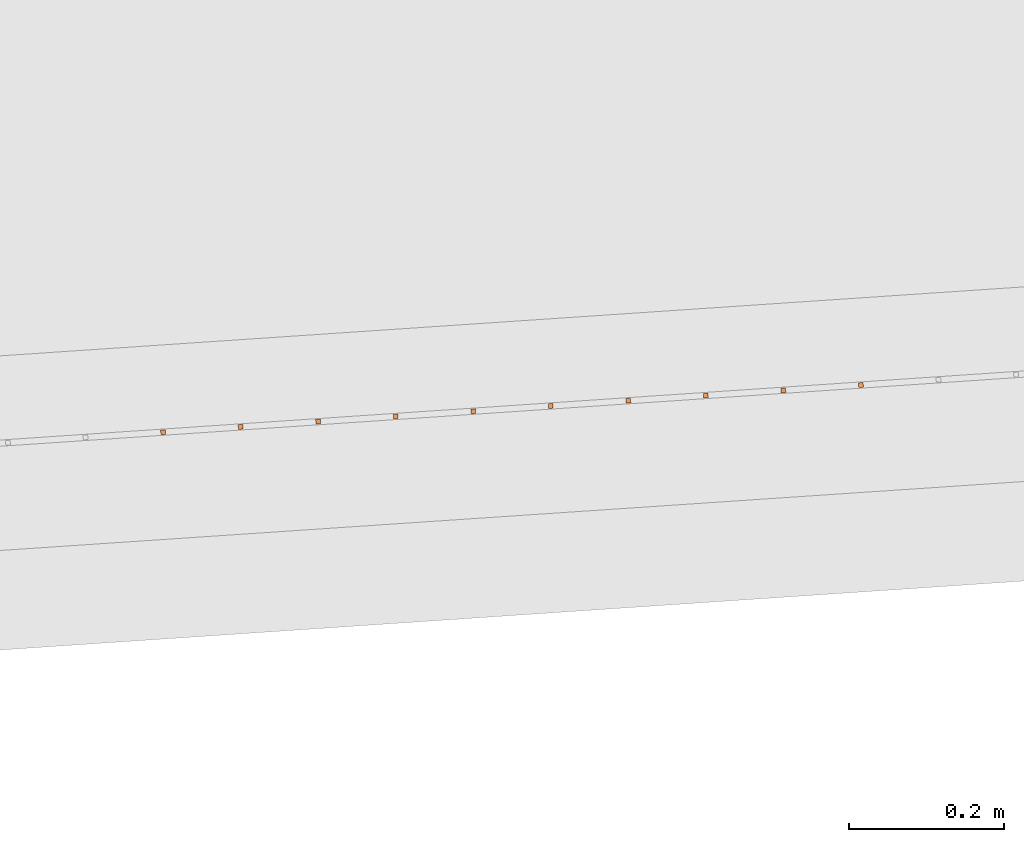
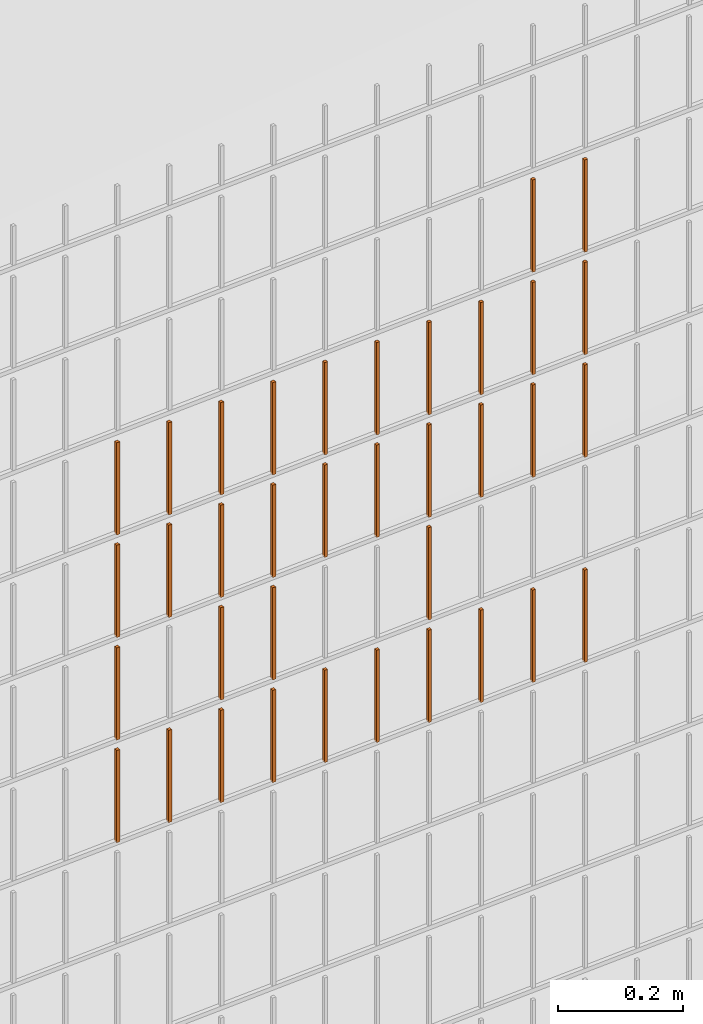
# One storey, part 176 of 1809: 36 proxies, 1 element without a shape of its own.
"""IFC2X3 building model written with IfcOpenShell, lengths in millimetres."""

from ifc_helpers import new_model, entity, si_unit, converted_unit, derived_unit, money_unit, direction, frame, origin_with_axes, place, context, subcontext, project, spatial, faceted_brep, source, transform, mapped, material, type_object, element, aggregate, save


model = new_model("IFC2X3")

# Units and contexts
model_context = context("Model", 3, precision=0.01, world=origin_with_axes(), true_north=direction((0.0, 1.0)))
body_context = subcontext(model_context, "Body", "Model", "MODEL_VIEW")
ifc_project = project(units=[si_unit("LENGTHUNIT", "METRE", prefix="MILLI"), si_unit("AREAUNIT", "SQUARE_METRE"), si_unit("VOLUMEUNIT", "CUBIC_METRE"), converted_unit("PLANEANGLEUNIT", "DEGREE", entity("IfcPlaneAngleMeasure", 0.0174532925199), si_unit("PLANEANGLEUNIT", "RADIAN"), dimensions=[0, 0, 0, 0, 0, 0, 0]), si_unit("SOLIDANGLEUNIT", "STERADIAN"), money_unit("EUR"), converted_unit("TIMEUNIT", "Year", entity("IfcTimeMeasure", 31556926.0), si_unit("TIMEUNIT", "SECOND"), dimensions=[0, 0, 1, 0, 0, 0, 0]), si_unit("MASSUNIT", "GRAM", prefix="KILO"), si_unit("THERMODYNAMICTEMPERATUREUNIT", "DEGREE_CELSIUS"), si_unit("LUMINOUSINTENSITYUNIT", "LUMEN"), si_unit("ENERGYUNIT", "JOULE", prefix="MEGA"), derived_unit("THERMALCONDUCTANCEUNIT", [(si_unit("POWERUNIT", "WATT"), 1), (si_unit("LENGTHUNIT", "METRE"), -1), (si_unit("THERMODYNAMICTEMPERATUREUNIT", "KELVIN"), -1)]), derived_unit("SPECIFICHEATCAPACITYUNIT", [(si_unit("ENERGYUNIT", "JOULE"), 1), (si_unit("MASSUNIT", "GRAM", prefix="KILO"), -1), (si_unit("THERMODYNAMICTEMPERATUREUNIT", "KELVIN"), -1)]), derived_unit("MASSDENSITYUNIT", [(si_unit("MASSUNIT", "GRAM", prefix="KILO"), 1), (si_unit("VOLUMEUNIT", "CUBIC_METRE"), -1)])], contexts=[model_context])

# Site, building, storey
site_placement = place(None, origin_with_axes())
site = spatial("IfcSite", under=ifc_project, at=site_placement, Name="Politse- ja Piirivalveameti ning Päästeameti ühishoone", CompositionType="ELEMENT")
building_placement = place(site_placement, origin_with_axes())
building = spatial("IfcBuilding", under=site, at=building_placement, Name="Politse- ja Piirivalveameti ning Päästeameti ühishoone", CompositionType="ELEMENT")
storey_placement = place(building_placement, origin_with_axes())
storey = spatial("IfcBuildingStorey", under=building, at=storey_placement, Name="Esimene korrus", CompositionType="ELEMENT", Elevation=0.0)

# Proxies
building_element_proxy_type_1 = type_object("IfcBuildingElementProxyType", Name="Railing Type", PredefinedType="NOTDEFINED")
proxy_1_placement = place(storey_placement, frame((89252.001212, -29183.4766571, 203.661247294), z_axis=(0.0, 0.0, 1.0), x_axis=(1.0, 0.0, 0.0)))
proxy_1 = element("IfcBuildingElementProxy", 1, at=proxy_1_placement, inside=storey, type_object=building_element_proxy_type_1, Name="PIIRDEAED")
ifc_material = material(Name="ET-03_Raud")
building_element_proxy_type_2 = type_object("IfcBuildingElementProxyType", Name="IfcBuildingElementProxy", PredefinedType="NOTDEFINED")
shared_shape_1 = source(origin_with_axes(), body_context, "Body", "Brep", [
    faceted_brep([(3.0, 3.0, -0.000752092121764), (-3.0, 3.0, -0.000752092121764), (-3.0, 3.0, 179.99926046), (3.0, 3.0, 179.99926046), (3.0, -3.0, 0.000752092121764), (-3.0, -3.0, 0.000752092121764), (-3.0, -3.0, 180.000764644), (3.0, -3.0, 180.000764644)], [[[0, 1, 2, 3]], [[0, 4, 5, 1]], [[1, 5, 6, 2]], [[3, 2, 6, 7]], [[4, 0, 3, 7]], [[5, 4, 7, 6]]]),
])
proxy_2_placement = place(proxy_1_placement, frame((-73559.0725734, -22266.412512, 1208.75129845), z_axis=(0.0, 0.0, 1.0), x_axis=(1.0, 0.0, 0.0)))
proxy_2 = element("IfcBuildingElementProxy", 2, at=proxy_2_placement, type_object=building_element_proxy_type_2, material=ifc_material, Name="BALUSTER - 001", context=body_context, shape_type="MappedRepresentation", body=[
    mapped(shared_shape_1, transform((0.0, 0.0, 0.0), x_axis=(-0.0673926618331, 0.997726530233, 0.0), y_axis=(-0.997726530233, -0.0673926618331, 0.0), z_axis=(0.0, 0.0, 1.0))),
])
proxy_3_placement = place(proxy_1_placement, frame((-74157.7084915, -22306.8481091, 1208.60088002), z_axis=(0.0, 0.0, 1.0), x_axis=(1.0, 0.0, 0.0)))
proxy_3 = element("IfcBuildingElementProxy", 3, at=proxy_3_placement, type_object=building_element_proxy_type_2, material=ifc_material, Name="BALUSTER - 001", context=body_context, shape_type="MappedRepresentation", body=[
    mapped(shared_shape_1, transform((0.0, 0.0, 0.0), x_axis=(-0.0673926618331, 0.997726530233, 0.0), y_axis=(-0.997726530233, -0.0673926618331, 0.0), z_axis=(0.0, 0.0, 1.0))),
])
shared_shape_2 = source(origin_with_axes(), body_context, "Body", "Brep", [
    faceted_brep([(3.0, 3.0, -0.000752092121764), (-3.0, 3.0, -0.000752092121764), (-3.0, 3.0, 179.99926046), (3.0, 3.0, 179.99926046), (3.0, -3.0, 0.000752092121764), (-3.0, -3.0, 0.000752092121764), (-3.0, -3.0, 180.000764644), (3.0, -3.0, 180.000764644)], [[[0, 1, 2, 3]], [[0, 4, 5, 1]], [[1, 5, 6, 2]], [[3, 2, 6, 7]], [[4, 0, 3, 7]], [[5, 4, 7, 6]]]),
])
proxy_4_placement = place(proxy_1_placement, frame((-74157.7084915, -22306.8481091, 1008.60088002), z_axis=(0.0, 0.0, 1.0), x_axis=(1.0, 0.0, 0.0)))
proxy_4 = element("IfcBuildingElementProxy", 4, at=proxy_4_placement, type_object=building_element_proxy_type_2, material=ifc_material, Name="BALUSTER - 001", context=body_context, shape_type="MappedRepresentation", body=[
    mapped(shared_shape_2, transform((0.0, 0.0, 0.0), x_axis=(-0.0673926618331, 0.997726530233, 0.0), y_axis=(-0.997726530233, -0.0673926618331, 0.0), z_axis=(0.0, 0.0, 1.0))),
])
proxy_5_placement = place(proxy_1_placement, frame((-73559.0725734, -22266.412512, 1408.75129845), z_axis=(0.0, 0.0, 1.0), x_axis=(1.0, 0.0, 0.0)))
proxy_5 = element("IfcBuildingElementProxy", 5, at=proxy_5_placement, type_object=building_element_proxy_type_2, material=ifc_material, Name="BALUSTER - 001", context=body_context, shape_type="MappedRepresentation", body=[
    mapped(shared_shape_2, transform((0.0, 0.0, 0.0), x_axis=(-0.0673926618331, 0.997726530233, 0.0), y_axis=(-0.997726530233, -0.0673926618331, 0.0), z_axis=(0.0, 0.0, 1.0))),
])
proxy_6_placement = place(proxy_1_placement, frame((-74157.7084915, -22306.8481091, 1408.60088002), z_axis=(0.0, 0.0, 1.0), x_axis=(1.0, 0.0, 0.0)))
proxy_6 = element("IfcBuildingElementProxy", 6, at=proxy_6_placement, type_object=building_element_proxy_type_2, material=ifc_material, Name="BALUSTER - 001", context=body_context, shape_type="MappedRepresentation", body=[
    mapped(shared_shape_2, transform((0.0, 0.0, 0.0), x_axis=(-0.0673926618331, 0.997726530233, 0.0), y_axis=(-0.997726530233, -0.0673926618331, 0.0), z_axis=(0.0, 0.0, 1.0))),
])
shared_shape_3 = source(origin_with_axes(), body_context, "Body", "Brep", [
    faceted_brep([(3.0, 3.0, -0.000752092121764), (-3.0, 3.0, -0.000752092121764), (-3.0, 3.0, 179.99926046), (3.0, 3.0, 179.99926046), (3.0, -3.0, 0.000752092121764), (-3.0, -3.0, 0.000752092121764), (-3.0, -3.0, 180.000764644), (3.0, -3.0, 180.000764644)], [[[0, 1, 2, 3]], [[0, 4, 5, 1]], [[1, 5, 6, 2]], [[3, 2, 6, 7]], [[4, 0, 3, 7]], [[5, 4, 7, 6]]]),
])
proxy_7_placement = place(proxy_1_placement, frame((-73359.5272673, -22252.9339796, 1208.80143792), z_axis=(0.0, 0.0, 1.0), x_axis=(1.0, 0.0, 0.0)))
proxy_7 = element("IfcBuildingElementProxy", 7, at=proxy_7_placement, type_object=building_element_proxy_type_2, material=ifc_material, Name="BALUSTER - 001", context=body_context, shape_type="MappedRepresentation", body=[
    mapped(shared_shape_3, transform((0.0, 0.0, 0.0), x_axis=(-0.0673926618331, 0.997726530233, 0.0), y_axis=(-0.997726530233, -0.0673926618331, 0.0), z_axis=(0.0, 0.0, 1.0))),
])
shared_shape_4 = source(origin_with_axes(), body_context, "Body", "Brep", [
    faceted_brep([(3.0, 3.0, -0.000752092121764), (-3.0, 3.0, -0.000752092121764), (-3.0, 3.0, 179.99926046), (3.0, 3.0, 179.99926046), (3.0, -3.0, 0.000752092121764), (-3.0, -3.0, 0.000752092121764), (-3.0, -3.0, 180.000764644), (3.0, -3.0, 180.000764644)], [[[0, 1, 2, 3]], [[0, 4, 5, 1]], [[1, 5, 6, 2]], [[3, 2, 6, 7]], [[4, 0, 3, 7]], [[5, 4, 7, 6]]]),
])
proxy_8_placement = place(proxy_1_placement, frame((-73359.5272673, -22252.9339796, 808.801437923), z_axis=(0.0, 0.0, 1.0), x_axis=(1.0, 0.0, 0.0)))
proxy_8 = element("IfcBuildingElementProxy", 8, at=proxy_8_placement, type_object=building_element_proxy_type_2, material=ifc_material, Name="BALUSTER - 001", context=body_context, shape_type="MappedRepresentation", body=[
    mapped(shared_shape_4, transform((0.0, 0.0, 0.0), x_axis=(-0.0673926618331, 0.997726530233, 0.0), y_axis=(-0.997726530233, -0.0673926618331, 0.0), z_axis=(0.0, 0.0, 1.0))),
])
proxy_9_placement = place(proxy_1_placement, frame((-73259.7546143, -22246.1947135, 1208.82650766), z_axis=(0.0, 0.0, 1.0), x_axis=(1.0, 0.0, 0.0)))
proxy_9 = element("IfcBuildingElementProxy", 9, at=proxy_9_placement, type_object=building_element_proxy_type_2, material=ifc_material, Name="BALUSTER - 001", context=body_context, shape_type="MappedRepresentation", body=[
    mapped(shared_shape_4, transform((0.0, 0.0, 0.0), x_axis=(-0.0673926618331, 0.997726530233, 0.0), y_axis=(-0.997726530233, -0.0673926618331, 0.0), z_axis=(0.0, 0.0, 1.0))),
])
shared_shape_5 = source(origin_with_axes(), body_context, "Body", "Brep", [
    faceted_brep([(3.0, 3.0, -0.000752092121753), (-3.0, 3.0, -0.000752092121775), (-3.0, 3.0, 179.99926046), (3.0, 3.0, 179.99926046), (3.0, -3.0, 0.000752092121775), (-3.0, -3.0, 0.000752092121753), (-3.0, -3.0, 180.000764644), (3.0, -3.0, 180.000764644)], [[[0, 1, 2, 3]], [[0, 4, 5, 1]], [[1, 5, 6, 2]], [[3, 2, 6, 7]], [[4, 0, 3, 7]], [[5, 4, 7, 6]]]),
])
proxy_10_placement = place(proxy_1_placement, frame((-73559.0725734, -22266.412512, 808.751298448), z_axis=(0.0, 0.0, 1.0), x_axis=(1.0, 0.0, 0.0)))
proxy_10 = element("IfcBuildingElementProxy", 10, at=proxy_10_placement, type_object=building_element_proxy_type_2, material=ifc_material, Name="BALUSTER - 001", context=body_context, shape_type="MappedRepresentation", body=[
    mapped(shared_shape_5, transform((0.0, 0.0, 0.0), x_axis=(-0.0673926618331, 0.997726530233, 0.0), y_axis=(-0.997726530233, -0.0673926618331, 0.0), z_axis=(0.0, 0.0, 1.0))),
])
shared_shape_6 = source(origin_with_axes(), body_context, "Body", "Brep", [
    faceted_brep([(3.0, 3.0, -0.000752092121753), (-3.0, 3.0, -0.000752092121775), (-3.0, 3.0, 179.99926046), (3.0, 3.0, 179.99926046), (3.0, -3.0, 0.000752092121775), (-3.0, -3.0, 0.000752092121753), (-3.0, -3.0, 180.000764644), (3.0, -3.0, 180.000764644)], [[[0, 1, 2, 3]], [[0, 4, 5, 1]], [[1, 5, 6, 2]], [[3, 2, 6, 7]], [[4, 0, 3, 7]], [[5, 4, 7, 6]]]),
])
proxy_11_placement = place(proxy_1_placement, frame((-73858.3905324, -22286.6303106, 808.676089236), z_axis=(0.0, 0.0, 1.0), x_axis=(1.0, 0.0, 0.0)))
proxy_11 = element("IfcBuildingElementProxy", 11, at=proxy_11_placement, type_object=building_element_proxy_type_2, material=ifc_material, Name="BALUSTER - 001", context=body_context, shape_type="MappedRepresentation", body=[
    mapped(shared_shape_6, transform((0.0, 0.0, 0.0), x_axis=(-0.0673926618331, 0.997726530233, 0.0), y_axis=(-0.997726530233, -0.0673926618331, 0.0), z_axis=(0.0, 0.0, 1.0))),
])
proxy_12_placement = place(proxy_1_placement, frame((-73858.3905324, -22286.6303106, 1208.67608924), z_axis=(0.0, 0.0, 1.0), x_axis=(1.0, 0.0, 0.0)))
proxy_12 = element("IfcBuildingElementProxy", 12, at=proxy_12_placement, type_object=building_element_proxy_type_2, material=ifc_material, Name="BALUSTER - 001", context=body_context, shape_type="MappedRepresentation", body=[
    mapped(shared_shape_6, transform((0.0, 0.0, 0.0), x_axis=(-0.0673926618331, 0.997726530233, 0.0), y_axis=(-0.997726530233, -0.0673926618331, 0.0), z_axis=(0.0, 0.0, 1.0))),
])
shared_shape_7 = source(origin_with_axes(), body_context, "Body", "Brep", [
    faceted_brep([(3.0, 3.0, -0.000752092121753), (-3.0, 3.0, -0.000752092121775), (-3.0, 3.0, 179.99926046), (3.0, 3.0, 179.99926046), (3.0, -3.0, 0.000752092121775), (-3.0, -3.0, 0.000752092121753), (-3.0, -3.0, 180.000764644), (3.0, -3.0, 180.000764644)], [[[0, 1, 2, 3]], [[0, 4, 5, 1]], [[1, 5, 6, 2]], [[3, 2, 6, 7]], [[4, 0, 3, 7]], [[5, 4, 7, 6]]]),
])
proxy_13_placement = place(proxy_1_placement, frame((-73658.8452264, -22273.1517782, 1208.72622871), z_axis=(0.0, 0.0, 1.0), x_axis=(1.0, 0.0, 0.0)))
proxy_13 = element("IfcBuildingElementProxy", 13, at=proxy_13_placement, type_object=building_element_proxy_type_2, material=ifc_material, Name="BALUSTER - 001", context=body_context, shape_type="MappedRepresentation", body=[
    mapped(shared_shape_7, transform((0.0, 0.0, 0.0), x_axis=(-0.0673926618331, 0.997726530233, 0.0), y_axis=(-0.997726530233, -0.0673926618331, 0.0), z_axis=(0.0, 0.0, 1.0))),
])
shared_shape_8 = source(origin_with_axes(), body_context, "Body", "Brep", [
    faceted_brep([(3.0, 3.0, -0.000752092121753), (-3.0, 3.0, -0.000752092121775), (-3.0, 3.0, 179.99926046), (3.0, 3.0, 179.99926046), (3.0, -3.0, 0.000752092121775), (-3.0, -3.0, 0.000752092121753), (-3.0, -3.0, 180.000764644), (3.0, -3.0, 180.000764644)], [[[0, 1, 2, 3]], [[0, 4, 5, 1]], [[1, 5, 6, 2]], [[3, 2, 6, 7]], [[4, 0, 3, 7]], [[5, 4, 7, 6]]]),
])
proxy_14_placement = place(proxy_1_placement, frame((-73259.7546143, -22246.1947135, 808.826507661), z_axis=(0.0, 0.0, 1.0), x_axis=(1.0, 0.0, 0.0)))
proxy_14 = element("IfcBuildingElementProxy", 14, at=proxy_14_placement, type_object=building_element_proxy_type_2, material=ifc_material, Name="BALUSTER - 001", context=body_context, shape_type="MappedRepresentation", body=[
    mapped(shared_shape_8, transform((0.0, 0.0, 0.0), x_axis=(-0.0673926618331, 0.997726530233, 0.0), y_axis=(-0.997726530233, -0.0673926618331, 0.0), z_axis=(0.0, 0.0, 1.0))),
])
proxy_15_placement = place(proxy_1_placement, frame((-73958.1631855, -22293.3695767, 1208.6510195), z_axis=(0.0, 0.0, 1.0), x_axis=(1.0, 0.0, 0.0)))
proxy_15 = element("IfcBuildingElementProxy", 15, at=proxy_15_placement, type_object=building_element_proxy_type_2, material=ifc_material, Name="BALUSTER - 001", context=body_context, shape_type="MappedRepresentation", body=[
    mapped(shared_shape_8, transform((0.0, 0.0, 0.0), x_axis=(-0.0673926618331, 0.997726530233, 0.0), y_axis=(-0.997726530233, -0.0673926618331, 0.0), z_axis=(0.0, 0.0, 1.0))),
])
shared_shape_9 = source(origin_with_axes(), body_context, "Body", "Brep", [
    faceted_brep([(3.0, 3.0, -0.000752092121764), (-3.0, 3.0, -0.000752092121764), (-3.0, 3.0, 179.99926046), (3.0, 3.0, 179.99926046), (3.0, -3.0, 0.000752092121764), (-3.0, -3.0, 0.000752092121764), (-3.0, -3.0, 180.000764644), (3.0, -3.0, 180.000764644)], [[[0, 1, 2, 3]], [[0, 4, 5, 1]], [[1, 5, 6, 2]], [[3, 2, 6, 7]], [[4, 0, 3, 7]], [[5, 4, 7, 6]]]),
])
proxy_16_placement = place(proxy_1_placement, frame((-73259.7546143, -22246.1947135, 1408.82650766), z_axis=(0.0, 0.0, 1.0), x_axis=(1.0, 0.0, 0.0)))
proxy_16 = element("IfcBuildingElementProxy", 16, at=proxy_16_placement, type_object=building_element_proxy_type_2, material=ifc_material, Name="BALUSTER - 001", context=body_context, shape_type="MappedRepresentation", body=[
    mapped(shared_shape_9, transform((0.0, 0.0, 0.0), x_axis=(-0.0673926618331, 0.997726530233, 0.0), y_axis=(-0.997726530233, -0.0673926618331, 0.0), z_axis=(0.0, 0.0, 1.0))),
])
proxy_17_placement = place(proxy_1_placement, frame((-73259.7546143, -22246.1947135, 1608.82650766), z_axis=(0.0, 0.0, 1.0), x_axis=(1.0, 0.0, 0.0)))
proxy_17 = element("IfcBuildingElementProxy", 17, at=proxy_17_placement, type_object=building_element_proxy_type_2, material=ifc_material, Name="BALUSTER - 001", context=body_context, shape_type="MappedRepresentation", body=[
    mapped(shared_shape_9, transform((0.0, 0.0, 0.0), x_axis=(-0.0673926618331, 0.997726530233, 0.0), y_axis=(-0.997726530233, -0.0673926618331, 0.0), z_axis=(0.0, 0.0, 1.0))),
])
shared_shape_10 = source(origin_with_axes(), body_context, "Body", "Brep", [
    faceted_brep([(3.0, 3.0, -0.000752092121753), (-3.0, 3.0, -0.000752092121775), (-3.0, 3.0, 179.99926046), (3.0, 3.0, 179.99926046), (3.0, -3.0, 0.000752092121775), (-3.0, -3.0, 0.000752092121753), (-3.0, -3.0, 180.000764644), (3.0, -3.0, 180.000764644)], [[[0, 1, 2, 3]], [[0, 4, 5, 1]], [[1, 5, 6, 2]], [[3, 2, 6, 7]], [[4, 0, 3, 7]], [[5, 4, 7, 6]]]),
])
proxy_18_placement = place(proxy_1_placement, frame((-73858.3905324, -22286.6303106, 1408.67608924), z_axis=(0.0, 0.0, 1.0), x_axis=(1.0, 0.0, 0.0)))
proxy_18 = element("IfcBuildingElementProxy", 18, at=proxy_18_placement, type_object=building_element_proxy_type_2, material=ifc_material, Name="BALUSTER - 001", context=body_context, shape_type="MappedRepresentation", body=[
    mapped(shared_shape_10, transform((0.0, 0.0, 0.0), x_axis=(-0.0673926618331, 0.997726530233, 0.0), y_axis=(-0.997726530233, -0.0673926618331, 0.0), z_axis=(0.0, 0.0, 1.0))),
])
shared_shape_11 = source(origin_with_axes(), body_context, "Body", "Brep", [
    faceted_brep([(3.0, 3.0, -0.000752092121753), (-3.0, 3.0, -0.000752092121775), (-3.0, 3.0, 179.99926046), (3.0, 3.0, 179.99926046), (3.0, -3.0, 0.000752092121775), (-3.0, -3.0, 0.000752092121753), (-3.0, -3.0, 180.000764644), (3.0, -3.0, 180.000764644)], [[[0, 1, 2, 3]], [[0, 4, 5, 1]], [[1, 5, 6, 2]], [[3, 2, 6, 7]], [[4, 0, 3, 7]], [[5, 4, 7, 6]]]),
])
proxy_19_placement = place(proxy_1_placement, frame((-73958.1631855, -22293.3695767, 1408.6510195), z_axis=(0.0, 0.0, 1.0), x_axis=(1.0, 0.0, 0.0)))
proxy_19 = element("IfcBuildingElementProxy", 19, at=proxy_19_placement, type_object=building_element_proxy_type_2, material=ifc_material, Name="BALUSTER - 001", context=body_context, shape_type="MappedRepresentation", body=[
    mapped(shared_shape_11, transform((0.0, 0.0, 0.0), x_axis=(-0.0673926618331, 0.997726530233, 0.0), y_axis=(-0.997726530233, -0.0673926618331, 0.0), z_axis=(0.0, 0.0, 1.0))),
])
shared_shape_12 = source(origin_with_axes(), body_context, "Body", "Brep", [
    faceted_brep([(3.0, 3.0, -0.000752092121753), (-3.0, 3.0, -0.000752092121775), (-3.0, 3.0, 179.99926046), (3.0, 3.0, 179.99926046), (3.0, -3.0, 0.000752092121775), (-3.0, -3.0, 0.000752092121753), (-3.0, -3.0, 180.000764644), (3.0, -3.0, 180.000764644)], [[[0, 1, 2, 3]], [[0, 4, 5, 1]], [[1, 5, 6, 2]], [[3, 2, 6, 7]], [[4, 0, 3, 7]], [[5, 4, 7, 6]]]),
])
proxy_20_placement = place(proxy_1_placement, frame((-73658.8452264, -22273.1517782, 808.726228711), z_axis=(0.0, 0.0, 1.0), x_axis=(1.0, 0.0, 0.0)))
proxy_20 = element("IfcBuildingElementProxy", 20, at=proxy_20_placement, type_object=building_element_proxy_type_2, material=ifc_material, Name="BALUSTER - 001", context=body_context, shape_type="MappedRepresentation", body=[
    mapped(shared_shape_12, transform((0.0, 0.0, 0.0), x_axis=(-0.0673926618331, 0.997726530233, 0.0), y_axis=(-0.997726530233, -0.0673926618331, 0.0), z_axis=(0.0, 0.0, 1.0))),
])
proxy_21_placement = place(proxy_1_placement, frame((-73958.1631855, -22293.3695767, 808.651019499), z_axis=(0.0, 0.0, 1.0), x_axis=(1.0, 0.0, 0.0)))
proxy_21 = element("IfcBuildingElementProxy", 21, at=proxy_21_placement, type_object=building_element_proxy_type_2, material=ifc_material, Name="BALUSTER - 001", context=body_context, shape_type="MappedRepresentation", body=[
    mapped(shared_shape_12, transform((0.0, 0.0, 0.0), x_axis=(-0.0673926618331, 0.997726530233, 0.0), y_axis=(-0.997726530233, -0.0673926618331, 0.0), z_axis=(0.0, 0.0, 1.0))),
])
shared_shape_13 = source(origin_with_axes(), body_context, "Body", "Brep", [
    faceted_brep([(3.0, 3.0, -0.000752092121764), (-3.0, 3.0, -0.000752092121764), (-3.0, 3.0, 179.99926046), (3.0, 3.0, 179.99926046), (3.0, -3.0, 0.000752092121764), (-3.0, -3.0, 0.000752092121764), (-3.0, -3.0, 180.000764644), (3.0, -3.0, 180.000764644)], [[[0, 1, 2, 3]], [[0, 4, 5, 1]], [[1, 5, 6, 2]], [[3, 2, 6, 7]], [[4, 0, 3, 7]], [[5, 4, 7, 6]]]),
])
proxy_22_placement = place(proxy_1_placement, frame((-74057.9358385, -22300.1088429, 808.625949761), z_axis=(0.0, 0.0, 1.0), x_axis=(1.0, 0.0, 0.0)))
proxy_22 = element("IfcBuildingElementProxy", 22, at=proxy_22_placement, type_object=building_element_proxy_type_2, material=ifc_material, Name="BALUSTER - 001", context=body_context, shape_type="MappedRepresentation", body=[
    mapped(shared_shape_13, transform((0.0, 0.0, 0.0), x_axis=(-0.0673926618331, 0.997726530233, 0.0), y_axis=(-0.997726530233, -0.0673926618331, 0.0), z_axis=(0.0, 0.0, 1.0))),
])
shared_shape_14 = source(origin_with_axes(), body_context, "Body", "Brep", [
    faceted_brep([(3.0, 3.0, -0.000752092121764), (-3.0, 3.0, -0.000752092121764), (-3.0, 3.0, 179.99926046), (3.0, 3.0, 179.99926046), (3.0, -3.0, 0.000752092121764), (-3.0, -3.0, 0.000752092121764), (-3.0, -3.0, 180.000764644), (3.0, -3.0, 180.000764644)], [[[0, 1, 2, 3]], [[0, 4, 5, 1]], [[1, 5, 6, 2]], [[3, 2, 6, 7]], [[4, 0, 3, 7]], [[5, 4, 7, 6]]]),
])
proxy_23_placement = place(proxy_1_placement, frame((-73459.2999203, -22259.6732458, 808.776368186), z_axis=(0.0, 0.0, 1.0), x_axis=(1.0, 0.0, 0.0)))
proxy_23 = element("IfcBuildingElementProxy", 23, at=proxy_23_placement, type_object=building_element_proxy_type_2, material=ifc_material, Name="BALUSTER - 001", context=body_context, shape_type="MappedRepresentation", body=[
    mapped(shared_shape_14, transform((0.0, 0.0, 0.0), x_axis=(-0.0673926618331, 0.997726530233, 0.0), y_axis=(-0.997726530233, -0.0673926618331, 0.0), z_axis=(0.0, 0.0, 1.0))),
])
proxy_24_placement = place(proxy_1_placement, frame((-73459.2999203, -22259.6732458, 1208.77636819), z_axis=(0.0, 0.0, 1.0), x_axis=(1.0, 0.0, 0.0)))
proxy_24 = element("IfcBuildingElementProxy", 24, at=proxy_24_placement, type_object=building_element_proxy_type_2, material=ifc_material, Name="BALUSTER - 001", context=body_context, shape_type="MappedRepresentation", body=[
    mapped(shared_shape_14, transform((0.0, 0.0, 0.0), x_axis=(-0.0673926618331, 0.997726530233, 0.0), y_axis=(-0.997726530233, -0.0673926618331, 0.0), z_axis=(0.0, 0.0, 1.0))),
])
shared_shape_15 = source(origin_with_axes(), body_context, "Body", "Brep", [
    faceted_brep([(3.0, 3.0, -0.000752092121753), (-3.0, 3.0, -0.000752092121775), (-3.0, 3.0, 179.99926046), (3.0, 3.0, 179.99926046), (3.0, -3.0, 0.000752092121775), (-3.0, -3.0, 0.000752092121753), (-3.0, -3.0, 180.000764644), (3.0, -3.0, 180.000764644)], [[[0, 1, 2, 3]], [[0, 4, 5, 1]], [[1, 5, 6, 2]], [[3, 2, 6, 7]], [[4, 0, 3, 7]], [[5, 4, 7, 6]]]),
])
proxy_25_placement = place(proxy_1_placement, frame((-73758.6178794, -22279.8910444, 808.701158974), z_axis=(0.0, 0.0, 1.0), x_axis=(1.0, 0.0, 0.0)))
proxy_25 = element("IfcBuildingElementProxy", 25, at=proxy_25_placement, type_object=building_element_proxy_type_2, material=ifc_material, Name="BALUSTER - 001", context=body_context, shape_type="MappedRepresentation", body=[
    mapped(shared_shape_15, transform((0.0, 0.0, 0.0), x_axis=(-0.0673926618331, 0.997726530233, 0.0), y_axis=(-0.997726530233, -0.0673926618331, 0.0), z_axis=(0.0, 0.0, 1.0))),
])
proxy_26_placement = place(proxy_1_placement, frame((-73758.6178794, -22279.8910444, 1208.70115897), z_axis=(0.0, 0.0, 1.0), x_axis=(1.0, 0.0, 0.0)))
proxy_26 = element("IfcBuildingElementProxy", 26, at=proxy_26_placement, type_object=building_element_proxy_type_2, material=ifc_material, Name="BALUSTER - 001", context=body_context, shape_type="MappedRepresentation", body=[
    mapped(shared_shape_15, transform((0.0, 0.0, 0.0), x_axis=(-0.0673926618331, 0.997726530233, 0.0), y_axis=(-0.997726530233, -0.0673926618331, 0.0), z_axis=(0.0, 0.0, 1.0))),
])
shared_shape_16 = source(origin_with_axes(), body_context, "Body", "Brep", [
    faceted_brep([(3.0, 3.0, -0.000752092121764), (-3.0, 3.0, -0.000752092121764), (-3.0, 3.0, 179.99926046), (3.0, 3.0, 179.99926046), (3.0, -3.0, 0.000752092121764), (-3.0, -3.0, 0.000752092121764), (-3.0, -3.0, 180.000764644), (3.0, -3.0, 180.000764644)], [[[0, 1, 2, 3]], [[0, 4, 5, 1]], [[1, 5, 6, 2]], [[3, 2, 6, 7]], [[4, 0, 3, 7]], [[5, 4, 7, 6]]]),
])
proxy_27_placement = place(proxy_1_placement, frame((-73459.2999203, -22259.6732458, 1408.77636819), z_axis=(0.0, 0.0, 1.0), x_axis=(1.0, 0.0, 0.0)))
proxy_27 = element("IfcBuildingElementProxy", 27, at=proxy_27_placement, type_object=building_element_proxy_type_2, material=ifc_material, Name="BALUSTER - 001", context=body_context, shape_type="MappedRepresentation", body=[
    mapped(shared_shape_16, transform((0.0, 0.0, 0.0), x_axis=(-0.0673926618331, 0.997726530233, 0.0), y_axis=(-0.997726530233, -0.0673926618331, 0.0), z_axis=(0.0, 0.0, 1.0))),
])
shared_shape_17 = source(origin_with_axes(), body_context, "Body", "Brep", [
    faceted_brep([(3.0, 3.0, -0.000752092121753), (-3.0, 3.0, -0.000752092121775), (-3.0, 3.0, 179.99926046), (3.0, 3.0, 179.99926046), (3.0, -3.0, 0.000752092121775), (-3.0, -3.0, 0.000752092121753), (-3.0, -3.0, 180.000764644), (3.0, -3.0, 180.000764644)], [[[0, 1, 2, 3]], [[0, 4, 5, 1]], [[1, 5, 6, 2]], [[3, 2, 6, 7]], [[4, 0, 3, 7]], [[5, 4, 7, 6]]]),
])
proxy_28_placement = place(proxy_1_placement, frame((-73758.6178794, -22279.8910444, 1408.70115897), z_axis=(0.0, 0.0, 1.0), x_axis=(1.0, 0.0, 0.0)))
proxy_28 = element("IfcBuildingElementProxy", 28, at=proxy_28_placement, type_object=building_element_proxy_type_2, material=ifc_material, Name="BALUSTER - 001", context=body_context, shape_type="MappedRepresentation", body=[
    mapped(shared_shape_17, transform((0.0, 0.0, 0.0), x_axis=(-0.0673926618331, 0.997726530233, 0.0), y_axis=(-0.997726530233, -0.0673926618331, 0.0), z_axis=(0.0, 0.0, 1.0))),
])
shared_shape_18 = source(origin_with_axes(), body_context, "Body", "Brep", [
    faceted_brep([(3.0, 3.0, -0.000752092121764), (-3.0, 3.0, -0.000752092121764), (-3.0, 3.0, 179.99926046), (3.0, 3.0, 179.99926046), (3.0, -3.0, 0.000752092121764), (-3.0, -3.0, 0.000752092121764), (-3.0, -3.0, 180.000764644), (3.0, -3.0, 180.000764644)], [[[0, 1, 2, 3]], [[0, 4, 5, 1]], [[1, 5, 6, 2]], [[3, 2, 6, 7]], [[4, 0, 3, 7]], [[5, 4, 7, 6]]]),
])
proxy_29_placement = place(proxy_1_placement, frame((-73359.5272673, -22252.9339796, 1408.80143792), z_axis=(0.0, 0.0, 1.0), x_axis=(1.0, 0.0, 0.0)))
proxy_29 = element("IfcBuildingElementProxy", 29, at=proxy_29_placement, type_object=building_element_proxy_type_2, material=ifc_material, Name="BALUSTER - 001", context=body_context, shape_type="MappedRepresentation", body=[
    mapped(shared_shape_18, transform((0.0, 0.0, 0.0), x_axis=(-0.0673926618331, 0.997726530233, 0.0), y_axis=(-0.997726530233, -0.0673926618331, 0.0), z_axis=(0.0, 0.0, 1.0))),
])
proxy_30_placement = place(proxy_1_placement, frame((-73359.5272673, -22252.9339796, 1608.80143792), z_axis=(0.0, 0.0, 1.0), x_axis=(1.0, 0.0, 0.0)))
proxy_30 = element("IfcBuildingElementProxy", 30, at=proxy_30_placement, type_object=building_element_proxy_type_2, material=ifc_material, Name="BALUSTER - 001", context=body_context, shape_type="MappedRepresentation", body=[
    mapped(shared_shape_18, transform((0.0, 0.0, 0.0), x_axis=(-0.0673926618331, 0.997726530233, 0.0), y_axis=(-0.997726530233, -0.0673926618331, 0.0), z_axis=(0.0, 0.0, 1.0))),
])
shared_shape_19 = source(origin_with_axes(), body_context, "Body", "Brep", [
    faceted_brep([(3.0, 3.0, -0.000752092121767), (-3.0, 3.0, -0.000752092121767), (-3.0, 3.0, 179.99926046), (3.0, 3.0, 179.99926046), (3.0, -3.0, 0.000752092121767), (-3.0, -3.0, 0.000752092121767), (-3.0, -3.0, 180.000764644), (3.0, -3.0, 180.000764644)], [[[0, 1, 2, 3]], [[0, 4, 5, 1]], [[1, 5, 6, 2]], [[3, 2, 6, 7]], [[4, 0, 3, 7]], [[5, 4, 7, 6]]]),
])
proxy_31_placement = place(proxy_1_placement, frame((-74157.7084915, -22306.8481091, 808.600880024), z_axis=(0.0, 0.0, 1.0), x_axis=(1.0, 0.0, 0.0)))
proxy_31 = element("IfcBuildingElementProxy", 31, at=proxy_31_placement, type_object=building_element_proxy_type_2, material=ifc_material, Name="BALUSTER - 001", context=body_context, shape_type="MappedRepresentation", body=[
    mapped(shared_shape_19, transform((0.0, 0.0, 0.0), x_axis=(-0.0673926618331, 0.997726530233, 0.0), y_axis=(-0.997726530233, -0.0673926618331, 0.0), z_axis=(0.0, 0.0, 1.0))),
])
shared_shape_20 = source(origin_with_axes(), body_context, "Body", "Brep", [
    faceted_brep([(3.0, 3.0, -0.000752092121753), (-3.0, 3.0, -0.000752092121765), (-3.00000000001, 3.0, 179.99926046), (2.99999999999, 3.0, 179.99926046), (3.0, -3.0, 0.000752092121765), (-3.0, -3.0, 0.000752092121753), (-3.00000000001, -3.0, 180.000764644), (2.99999999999, -3.0, 180.000764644)], [[[0, 1, 2, 3]], [[0, 4, 5, 1]], [[1, 5, 6, 2]], [[3, 2, 6, 7]], [[4, 0, 3, 7]], [[5, 4, 7, 6]]]),
])
proxy_32_placement = place(proxy_1_placement, frame((-73559.0725734, -22266.412512, 1008.75129845), z_axis=(0.0, 0.0, 1.0), x_axis=(1.0, 0.0, 0.0)))
proxy_32 = element("IfcBuildingElementProxy", 32, at=proxy_32_placement, type_object=building_element_proxy_type_2, material=ifc_material, Name="BALUSTER - 001", context=body_context, shape_type="MappedRepresentation", body=[
    mapped(shared_shape_20, transform((0.0, 0.0, 0.0), x_axis=(-0.0673926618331, 0.997726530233, 0.0), y_axis=(-0.997726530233, -0.0673926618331, 0.0), z_axis=(0.0, 0.0, 1.0))),
])
shared_shape_21 = source(origin_with_axes(), body_context, "Body", "Brep", [
    faceted_brep([(3.0, 3.0, -0.000752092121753), (-3.0, 3.0, -0.000752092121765), (-3.00000000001, 3.0, 179.99926046), (2.99999999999, 3.0, 179.99926046), (3.0, -3.0, 0.000752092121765), (-3.0, -3.0, 0.000752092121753), (-3.00000000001, -3.0, 180.000764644), (2.99999999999, -3.0, 180.000764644)], [[[0, 1, 2, 3]], [[0, 4, 5, 1]], [[1, 5, 6, 2]], [[3, 2, 6, 7]], [[4, 0, 3, 7]], [[5, 4, 7, 6]]]),
])
proxy_33_placement = place(proxy_1_placement, frame((-73858.3905324, -22286.6303106, 1008.67608924), z_axis=(0.0, 0.0, 1.0), x_axis=(1.0, 0.0, 0.0)))
proxy_33 = element("IfcBuildingElementProxy", 33, at=proxy_33_placement, type_object=building_element_proxy_type_2, material=ifc_material, Name="BALUSTER - 001", context=body_context, shape_type="MappedRepresentation", body=[
    mapped(shared_shape_21, transform((0.0, 0.0, 0.0), x_axis=(-0.0673926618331, 0.997726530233, 0.0), y_axis=(-0.997726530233, -0.0673926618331, 0.0), z_axis=(0.0, 0.0, 1.0))),
])
shared_shape_22 = source(origin_with_axes(), body_context, "Body", "Brep", [
    faceted_brep([(3.0, 3.0, -0.000752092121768), (-3.0, 3.0, -0.00075209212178), (-3.00000000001, 3.0, 179.99926046), (2.99999999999, 3.0, 179.99926046), (3.0, -3.0, 0.00075209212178), (-3.0, -3.0, 0.000752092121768), (-3.00000000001, -3.0, 180.000764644), (2.99999999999, -3.0, 180.000764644)], [[[0, 1, 2, 3]], [[0, 4, 5, 1]], [[1, 5, 6, 2]], [[3, 2, 6, 7]], [[4, 0, 3, 7]], [[5, 4, 7, 6]]]),
])
proxy_34_placement = place(proxy_1_placement, frame((-73958.1631855, -22293.3695767, 1008.6510195), z_axis=(0.0, 0.0, 1.0), x_axis=(1.0, 0.0, 0.0)))
proxy_34 = element("IfcBuildingElementProxy", 34, at=proxy_34_placement, type_object=building_element_proxy_type_2, material=ifc_material, Name="BALUSTER - 001", context=body_context, shape_type="MappedRepresentation", body=[
    mapped(shared_shape_22, transform((0.0, 0.0, 0.0), x_axis=(-0.0673926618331, 0.997726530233, 0.0), y_axis=(-0.997726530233, -0.0673926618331, 0.0), z_axis=(0.0, 0.0, 1.0))),
])
shared_shape_23 = source(origin_with_axes(), body_context, "Body", "Brep", [
    faceted_brep([(3.0, 3.0, -0.000752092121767), (-3.0, 3.0, -0.000752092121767), (-3.0, 3.0, 179.99926046), (3.0, 3.0, 179.99926046), (3.0, -3.0, 0.000752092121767), (-3.0, -3.0, 0.000752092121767), (-3.0, -3.0, 180.000764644), (3.0, -3.0, 180.000764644)], [[[0, 1, 2, 3]], [[0, 4, 5, 1]], [[1, 5, 6, 2]], [[3, 2, 6, 7]], [[4, 0, 3, 7]], [[5, 4, 7, 6]]]),
])
proxy_35_placement = place(proxy_1_placement, frame((-74057.9358385, -22300.1088429, 1208.62594976), z_axis=(0.0, 0.0, 1.0), x_axis=(1.0, 0.0, 0.0)))
proxy_35 = element("IfcBuildingElementProxy", 35, at=proxy_35_placement, type_object=building_element_proxy_type_2, material=ifc_material, Name="BALUSTER - 001", context=body_context, shape_type="MappedRepresentation", body=[
    mapped(shared_shape_23, transform((0.0, 0.0, 0.0), x_axis=(-0.0673926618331, 0.997726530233, 0.0), y_axis=(-0.997726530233, -0.0673926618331, 0.0), z_axis=(0.0, 0.0, 1.0))),
])
shared_shape_24 = source(origin_with_axes(), body_context, "Body", "Brep", [
    faceted_brep([(3.0, 3.0, -0.000752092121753), (-3.0, 3.0, -0.000752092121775), (-3.0, 3.0, 179.99926046), (3.0, 3.0, 179.99926046), (3.0, -3.0, 0.000752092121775), (-3.0, -3.0, 0.000752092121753), (-3.0, -3.0, 180.000764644), (3.0, -3.0, 180.000764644)], [[[0, 1, 2, 3]], [[0, 4, 5, 1]], [[1, 5, 6, 2]], [[3, 2, 6, 7]], [[4, 0, 3, 7]], [[5, 4, 7, 6]]]),
])
proxy_36_placement = place(proxy_1_placement, frame((-73658.8452264, -22273.1517782, 1408.72622871), z_axis=(0.0, 0.0, 1.0), x_axis=(1.0, 0.0, 0.0)))
proxy_36 = element("IfcBuildingElementProxy", 36, at=proxy_36_placement, type_object=building_element_proxy_type_2, material=ifc_material, Name="BALUSTER - 001", context=body_context, shape_type="MappedRepresentation", body=[
    mapped(shared_shape_24, transform((0.0, 0.0, 0.0), x_axis=(-0.0673926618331, 0.997726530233, 0.0), y_axis=(-0.997726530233, -0.0673926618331, 0.0), z_axis=(0.0, 0.0, 1.0))),
])
shared_shape_25 = source(origin_with_axes(), body_context, "Body", "Brep", [
    faceted_brep([(3.0, 3.0, -0.000752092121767), (-3.0, 3.0, -0.000752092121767), (-3.0, 3.0, 179.99926046), (3.0, 3.0, 179.99926046), (3.0, -3.0, 0.000752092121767), (-3.0, -3.0, 0.000752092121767), (-3.0, -3.0, 180.000764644), (3.0, -3.0, 180.000764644)], [[[0, 1, 2, 3]], [[0, 4, 5, 1]], [[1, 5, 6, 2]], [[3, 2, 6, 7]], [[4, 0, 3, 7]], [[5, 4, 7, 6]]]),
])
proxy_37_placement = place(proxy_1_placement, frame((-74057.9358385, -22300.1088429, 1408.62594976), z_axis=(0.0, 0.0, 1.0), x_axis=(1.0, 0.0, 0.0)))
proxy_37 = element("IfcBuildingElementProxy", 37, at=proxy_37_placement, type_object=building_element_proxy_type_2, material=ifc_material, Name="BALUSTER - 001", context=body_context, shape_type="MappedRepresentation", body=[
    mapped(shared_shape_25, transform((0.0, 0.0, 0.0), x_axis=(-0.0673926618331, 0.997726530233, 0.0), y_axis=(-0.997726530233, -0.0673926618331, 0.0), z_axis=(0.0, 0.0, 1.0))),
])
aggregate(proxy_1, [proxy_14, proxy_8, proxy_23, proxy_10, proxy_20, proxy_25, proxy_11, proxy_21, proxy_22, proxy_31, proxy_32, proxy_33, proxy_34, proxy_4, proxy_9, proxy_7, proxy_24, proxy_2, proxy_13, proxy_26, proxy_12, proxy_15, proxy_35, proxy_3, proxy_16, proxy_29, proxy_27, proxy_5, proxy_36, proxy_28, proxy_18, proxy_19, proxy_37, proxy_6, proxy_17, proxy_30])

save(model, "model.ifc")
